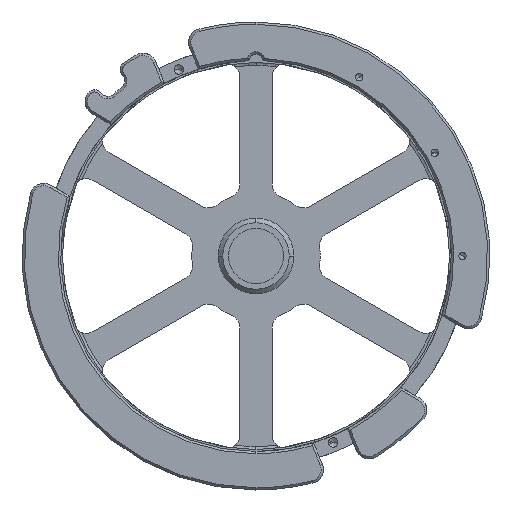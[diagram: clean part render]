
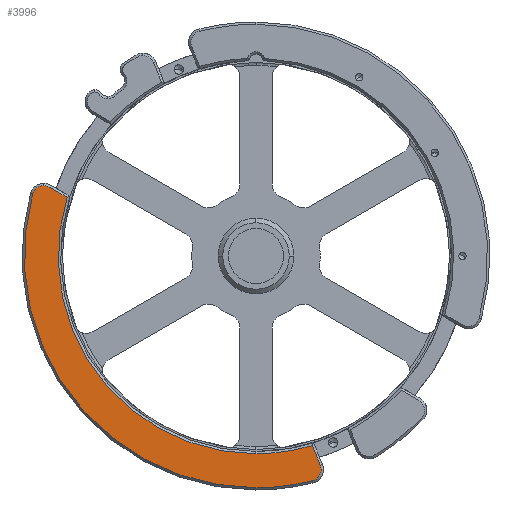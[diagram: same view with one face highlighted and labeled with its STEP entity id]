
A CAD part, front view. The second image highlights one B-rep face of the part: STEP entity #3996.
In plain terms, the highlighted planar face has unit normal (0, -1, 0).
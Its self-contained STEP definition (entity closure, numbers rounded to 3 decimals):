
#72 = CARTESIAN_POINT ( 'NONE',  ( 0., -19., 0. ) ) ;
#130 = FACE_OUTER_BOUND ( 'NONE', #4173, .T. ) ;
#166 = VERTEX_POINT ( 'NONE', #1285 ) ;
#174 = AXIS2_PLACEMENT_3D ( 'NONE', #2310, #1927, #6399 ) ;
#182 = AXIS2_PLACEMENT_3D ( 'NONE', #929, #2811, #1412 ) ;
#276 = CIRCLE ( 'NONE', #174, 50.5 ) ;
#289 = ORIENTED_EDGE ( 'NONE', *, *, #1642, .T. ) ;
#424 = AXIS2_PLACEMENT_3D ( 'NONE', #5347, #916, #808 ) ;
#697 = DIRECTION ( 'NONE',  ( 0., 0., -1. ) ) ;
#808 = DIRECTION ( 'NONE',  ( 0., 0., -1. ) ) ;
#855 = EDGE_CURVE ( 'NONE', #166, #3734, #2331, .T. ) ;
#873 = DIRECTION ( 'NONE',  ( 0., -1., 0. ) ) ;
#916 = DIRECTION ( 'NONE',  ( 0., -1., 0. ) ) ;
#929 = CARTESIAN_POINT ( 'NONE',  ( -46.249, -19., 12.846 ) ) ;
#939 = CIRCLE ( 'NONE', #182, 2.5 ) ;
#941 = CARTESIAN_POINT ( 'NONE',  ( -41.158, -19., 12.793 ) ) ;
#960 = CARTESIAN_POINT ( 'NONE',  ( -46.249, -19., 15.346 ) ) ;
#1036 = AXIS2_PLACEMENT_3D ( 'NONE', #6076, #3143, #1208 ) ;
#1068 = EDGE_CURVE ( 'NONE', #3734, #2738, #1419, .T. ) ;
#1189 = CARTESIAN_POINT ( 'NONE',  ( 12.246, -19., -41.324 ) ) ;
#1208 = DIRECTION ( 'NONE',  ( 0., 0., -1. ) ) ;
#1285 = CARTESIAN_POINT ( 'NONE',  ( 0., -19., -43.1 ) ) ;
#1305 = AXIS2_PLACEMENT_3D ( 'NONE', #1811, #873, #5412 ) ;
#1412 = DIRECTION ( 'NONE',  ( 0., 0., -1. ) ) ;
#1419 = LINE ( 'NONE', #4976, #4849 ) ;
#1629 = CARTESIAN_POINT ( 'NONE',  ( -44.999, -19., 15.011 ) ) ;
#1630 = AXIS2_PLACEMENT_3D ( 'NONE', #1820, #4168, #6160 ) ;
#1642 = EDGE_CURVE ( 'NONE', #5143, #166, #4963, .T. ) ;
#1697 = PLANE ( 'NONE',  #1036 ) ;
#1811 = CARTESIAN_POINT ( 'NONE',  ( 0., -19., 0. ) ) ;
#1820 = CARTESIAN_POINT ( 'NONE',  ( 11.705, -19., -46.551 ) ) ;
#1927 = DIRECTION ( 'NONE',  ( 0., -1., 0. ) ) ;
#2070 = DIRECTION ( 'NONE',  ( 0., 1., 0. ) ) ;
#2145 = EDGE_CURVE ( 'NONE', #5647, #2300, #2351, .T. ) ;
#2274 = DIRECTION ( 'NONE',  ( 0., 0., -1. ) ) ;
#2300 = VERTEX_POINT ( 'NONE', #3550 ) ;
#2310 = CARTESIAN_POINT ( 'NONE',  ( 0., -19., 0. ) ) ;
#2331 = CIRCLE ( 'NONE', #4725, 43.1 ) ;
#2351 = CIRCLE ( 'NONE', #1305, 50.5 ) ;
#2368 = VERTEX_POINT ( 'NONE', #5819 ) ;
#2489 = EDGE_CURVE ( 'NONE', #5551, #5143, #3341, .T. ) ;
#2618 = CARTESIAN_POINT ( 'NONE',  ( 14.015, -19., -45.594 ) ) ;
#2642 = ORIENTED_EDGE ( 'NONE', *, *, #4499, .T. ) ;
#2682 = DIRECTION ( 'NONE',  ( -0.383, 0., 0.924 ) ) ;
#2738 = VERTEX_POINT ( 'NONE', #1629 ) ;
#2811 = DIRECTION ( 'NONE',  ( 0., -1., 0. ) ) ;
#2836 = EDGE_CURVE ( 'NONE', #2368, #5551, #6013, .T. ) ;
#3143 = DIRECTION ( 'NONE',  ( 0., -1., 0. ) ) ;
#3149 = CARTESIAN_POINT ( 'NONE',  ( 12.073, -19., -40.905 ) ) ;
#3231 = CARTESIAN_POINT ( 'NONE',  ( 0., -19., 0. ) ) ;
#3341 = LINE ( 'NONE', #3149, #4122 ) ;
#3414 = DIRECTION ( 'NONE',  ( -0.866, 0., 0.5 ) ) ;
#3446 = ORIENTED_EDGE ( 'NONE', *, *, #2489, .T. ) ;
#3454 = CIRCLE ( 'NONE', #424, 2.5 ) ;
#3550 = CARTESIAN_POINT ( 'NONE',  ( 0., -19., -50.5 ) ) ;
#3734 = VERTEX_POINT ( 'NONE', #941 ) ;
#3940 = ORIENTED_EDGE ( 'NONE', *, *, #4219, .T. ) ;
#3996 = ADVANCED_FACE ( 'NONE', ( #130 ), #1697, .T. ) ;
#4122 = VECTOR ( 'NONE', #2682, 1000. ) ;
#4168 = DIRECTION ( 'NONE',  ( 0., -1., 0. ) ) ;
#4173 = EDGE_LOOP ( 'NONE', ( #3446, #289, #4617, #5228, #3940, #5088, #6438, #2642, #5158 ) ) ;
#4219 = EDGE_CURVE ( 'NONE', #2738, #4514, #939, .T. ) ;
#4228 = DIRECTION ( 'NONE',  ( 0., 1., 0. ) ) ;
#4499 = EDGE_CURVE ( 'NONE', #2300, #2368, #276, .T. ) ;
#4514 = VERTEX_POINT ( 'NONE', #960 ) ;
#4617 = ORIENTED_EDGE ( 'NONE', *, *, #855, .T. ) ;
#4725 = AXIS2_PLACEMENT_3D ( 'NONE', #72, #2070, #697 ) ;
#4849 = VECTOR ( 'NONE', #3414, 1000. ) ;
#4963 = CIRCLE ( 'NONE', #5787, 43.1 ) ;
#4976 = CARTESIAN_POINT ( 'NONE',  ( -44.999, -19., 15.011 ) ) ;
#5070 = CARTESIAN_POINT ( 'NONE',  ( -48.658, -19., 13.515 ) ) ;
#5088 = ORIENTED_EDGE ( 'NONE', *, *, #6058, .T. ) ;
#5143 = VERTEX_POINT ( 'NONE', #1189 ) ;
#5158 = ORIENTED_EDGE ( 'NONE', *, *, #2836, .T. ) ;
#5228 = ORIENTED_EDGE ( 'NONE', *, *, #1068, .T. ) ;
#5347 = CARTESIAN_POINT ( 'NONE',  ( -46.249, -19., 12.846 ) ) ;
#5412 = DIRECTION ( 'NONE',  ( 0., 0., -1. ) ) ;
#5551 = VERTEX_POINT ( 'NONE', #2618 ) ;
#5647 = VERTEX_POINT ( 'NONE', #5070 ) ;
#5787 = AXIS2_PLACEMENT_3D ( 'NONE', #3231, #4228, #2274 ) ;
#5819 = CARTESIAN_POINT ( 'NONE',  ( 12.315, -19., -48.975 ) ) ;
#6013 = CIRCLE ( 'NONE', #1630, 2.5 ) ;
#6058 = EDGE_CURVE ( 'NONE', #4514, #5647, #3454, .T. ) ;
#6076 = CARTESIAN_POINT ( 'NONE',  ( 0., -19., 0. ) ) ;
#6160 = DIRECTION ( 'NONE',  ( 0., 0., -1. ) ) ;
#6399 = DIRECTION ( 'NONE',  ( 0., 0., -1. ) ) ;
#6438 = ORIENTED_EDGE ( 'NONE', *, *, #2145, .T. ) ;
